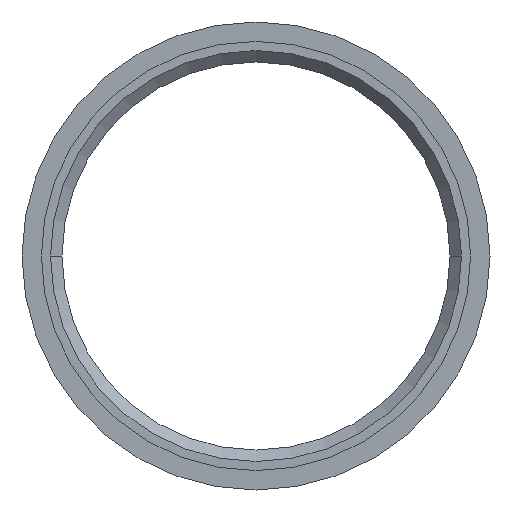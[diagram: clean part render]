
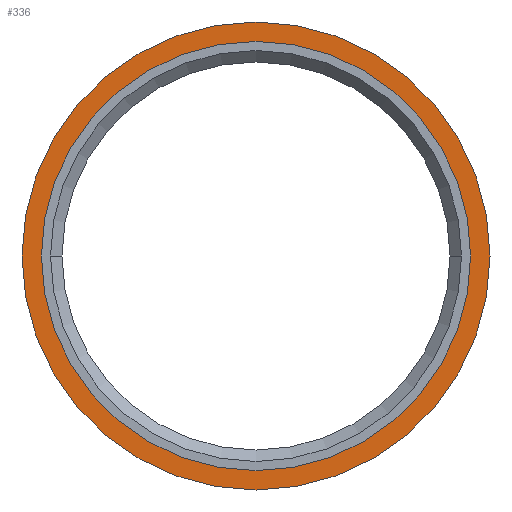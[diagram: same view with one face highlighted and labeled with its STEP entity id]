
A CAD part, front view. The second image highlights one B-rep face of the part: STEP entity #336.
In plain terms, the highlighted planar face has unit normal (0, -1, 0).
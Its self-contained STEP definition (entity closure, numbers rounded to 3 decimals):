
#118=CARTESIAN_POINT('',(0.,0.,0.));
#119=DIRECTION('',(0.,1.,0.));
#120=DIRECTION('',(1.,0.,0.));
#121=AXIS2_PLACEMENT_3D('',#118,#119,#120);
#126=CARTESIAN_POINT('',(0.,0.,0.));
#127=DIRECTION('',(0.,-1.,0.));
#128=DIRECTION('',(1.,0.,0.));
#129=AXIS2_PLACEMENT_3D('',#126,#127,#128);
#141=CARTESIAN_POINT('',(0.,0.,0.));
#142=DIRECTION('',(0.,-1.,0.));
#143=DIRECTION('',(1.,0.,0.));
#144=AXIS2_PLACEMENT_3D('',#141,#142,#143);
#156=CARTESIAN_POINT('',(0.,0.,0.));
#157=DIRECTION('',(0.,1.,0.));
#158=DIRECTION('',(1.,0.,0.));
#159=AXIS2_PLACEMENT_3D('',#156,#157,#158);
#217=CARTESIAN_POINT('',(10.25,0.,0.));
#219=VERTEX_POINT('',#217);
#221=CARTESIAN_POINT('',(-10.25,0.,0.));
#223=VERTEX_POINT('',#221);
#230=CARTESIAN_POINT('',(9.4,0.,0.));
#232=VERTEX_POINT('',#230);
#234=CARTESIAN_POINT('',(-9.4,0.,0.));
#236=VERTEX_POINT('',#234);
#321=CARTESIAN_POINT('',(0.,0.,0.));
#322=DIRECTION('',(0.,1.,0.));
#323=DIRECTION('',(1.,0.,0.));
#324=AXIS2_PLACEMENT_3D('',#321,#322,#323);
#325=PLANE('',#324);
#327=ORIENTED_EDGE('',*,*,#326,.F.);
#329=ORIENTED_EDGE('',*,*,#328,.T.);
#330=EDGE_LOOP('',(#327,#329));
#331=FACE_OUTER_BOUND('',#330,.F.);
#332=ORIENTED_EDGE('',*,*,#314,.F.);
#333=ORIENTED_EDGE('',*,*,#303,.T.);
#334=EDGE_LOOP('',(#332,#333));
#335=FACE_BOUND('',#334,.F.);
#122=CIRCLE('',#121,9.4);
#130=CIRCLE('',#129,9.4);
#145=CIRCLE('',#144,10.25);
#160=CIRCLE('',#159,10.25);
#303=EDGE_CURVE('',#232,#236,#130,.T.);
#314=EDGE_CURVE('',#232,#236,#122,.T.);
#326=EDGE_CURVE('',#219,#223,#145,.T.);
#328=EDGE_CURVE('',#219,#223,#160,.T.);
#336=ADVANCED_FACE('',(#331,#335),#325,.F.);
